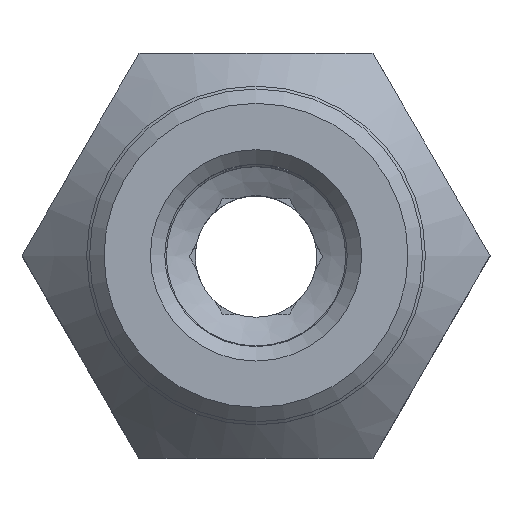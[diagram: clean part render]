
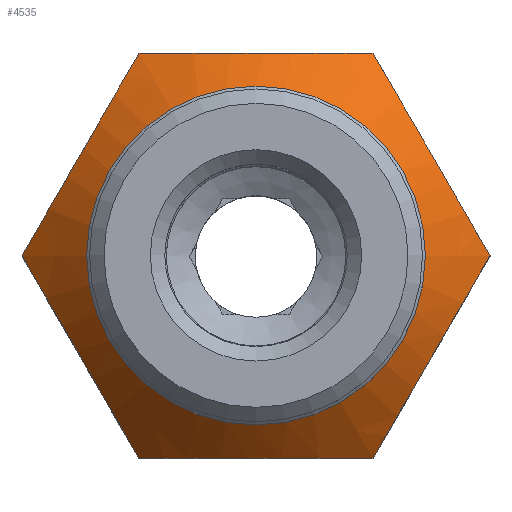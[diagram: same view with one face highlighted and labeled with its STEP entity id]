
A CAD part, top view. The second image highlights one B-rep face of the part: STEP entity #4535.
In plain terms, the highlighted conical face has half-angle 45 degrees and reference radius 8.5 mm.
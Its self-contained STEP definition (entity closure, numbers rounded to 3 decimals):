
#2272=HYPERBOLA('',#4289,7.,7.);
#2273=HYPERBOLA('',#4291,7.,7.);
#2275=HYPERBOLA('',#4295,7.,7.);
#2276=HYPERBOLA('',#4296,7.,7.);
#2277=HYPERBOLA('',#4297,7.,7.);
#2278=HYPERBOLA('',#4298,7.,7.);
#2300=CONICAL_SURFACE('',#4293,8.5,45.);
#2335=ORIENTED_EDGE('',*,*,#2947,.F.);
#2336=ORIENTED_EDGE('',*,*,#2944,.F.);
#2337=ORIENTED_EDGE('',*,*,#2943,.F.);
#2338=ORIENTED_EDGE('',*,*,#2948,.F.);
#2339=ORIENTED_EDGE('',*,*,#2949,.F.);
#2340=ORIENTED_EDGE('',*,*,#2950,.F.);
#2341=ORIENTED_EDGE('',*,*,#2951,.F.);
#2726=CIRCLE('',#4294,5.85);
#2799=VERTEX_POINT('',#3863);
#2801=VERTEX_POINT('',#3867);
#2802=VERTEX_POINT('',#3871);
#2804=VERTEX_POINT('',#3877);
#2805=VERTEX_POINT('',#3879);
#2806=VERTEX_POINT('',#3881);
#2807=VERTEX_POINT('',#3883);
#2943=EDGE_CURVE('',#2801,#2799,#2272,.T.);
#2944=EDGE_CURVE('',#2799,#2802,#2273,.T.);
#2947=EDGE_CURVE('',#2804,#2804,#2726,.T.);
#2948=EDGE_CURVE('',#2805,#2801,#2275,.T.);
#2949=EDGE_CURVE('',#2806,#2805,#2276,.T.);
#2950=EDGE_CURVE('',#2807,#2806,#2277,.T.);
#2951=EDGE_CURVE('',#2802,#2807,#2278,.T.);
#3138=EDGE_LOOP('',(#2335));
#3139=EDGE_LOOP('',(#2336,#2337,#2338,#2339,#2340,#2341));
#3250=FACE_BOUND('',#3138,.T.);
#3251=FACE_BOUND('',#3139,.T.);
#3385=DIRECTION('',(0.,0.,-1.));
#3386=DIRECTION('',(0.,-1.,0.));
#3389=DIRECTION('',(0.866,0.,-0.5));
#3390=DIRECTION('',(0.,-1.,0.));
#3394=DIRECTION('',(0.,-1.,0.));
#3395=DIRECTION('',(-1.,0.,0.));
#3396=DIRECTION('',(0.,1.,0.));
#3397=DIRECTION('',(0.,0.,-5.85));
#3398=DIRECTION('',(-0.866,0.,-0.5));
#3399=DIRECTION('',(0.,-1.,0.));
#3400=DIRECTION('',(-0.866,0.,0.5));
#3401=DIRECTION('',(0.,-1.,0.));
#3402=DIRECTION('',(0.,0.,1.));
#3403=DIRECTION('',(0.,-1.,0.));
#3404=DIRECTION('',(0.866,0.,0.5));
#3405=DIRECTION('',(0.,-1.,0.));
#3863=CARTESIAN_POINT('',(-5.195,-49.794,7.));
#3867=CARTESIAN_POINT('',(2.888,-49.794,7.));
#3869=CARTESIAN_POINT('',(-1.153,-41.712,7.));
#3871=CARTESIAN_POINT('',(-9.236,-49.794,0.));
#3872=CARTESIAN_POINT('',(-7.216,-41.712,3.5));
#3876=CARTESIAN_POINT('',(-1.153,-50.212,0.));
#3877=CARTESIAN_POINT('',(-1.153,-47.562,-5.85));
#3878=CARTESIAN_POINT('',(-1.153,-47.562,0.));
#3879=CARTESIAN_POINT('',(6.929,-49.794,0.));
#3880=CARTESIAN_POINT('',(4.909,-41.712,3.5));
#3881=CARTESIAN_POINT('',(2.888,-49.794,-7.));
#3882=CARTESIAN_POINT('',(4.909,-41.712,-3.5));
#3883=CARTESIAN_POINT('',(-5.195,-49.794,-7.));
#3884=CARTESIAN_POINT('',(-1.153,-41.712,-7.));
#3885=CARTESIAN_POINT('',(-7.216,-41.712,-3.5));
#4289=AXIS2_PLACEMENT_3D('',#3869,#3385,#3386);
#4291=AXIS2_PLACEMENT_3D('',#3872,#3389,#3390);
#4293=AXIS2_PLACEMENT_3D('',#3876,#3394,#3395);
#4294=AXIS2_PLACEMENT_3D('',#3878,#3396,#3397);
#4295=AXIS2_PLACEMENT_3D('',#3880,#3398,#3399);
#4296=AXIS2_PLACEMENT_3D('',#3882,#3400,#3401);
#4297=AXIS2_PLACEMENT_3D('',#3884,#3402,#3403);
#4298=AXIS2_PLACEMENT_3D('',#3885,#3404,#3405);
#4535=ADVANCED_FACE('',(#3250,#3251),#2300,.T.);
